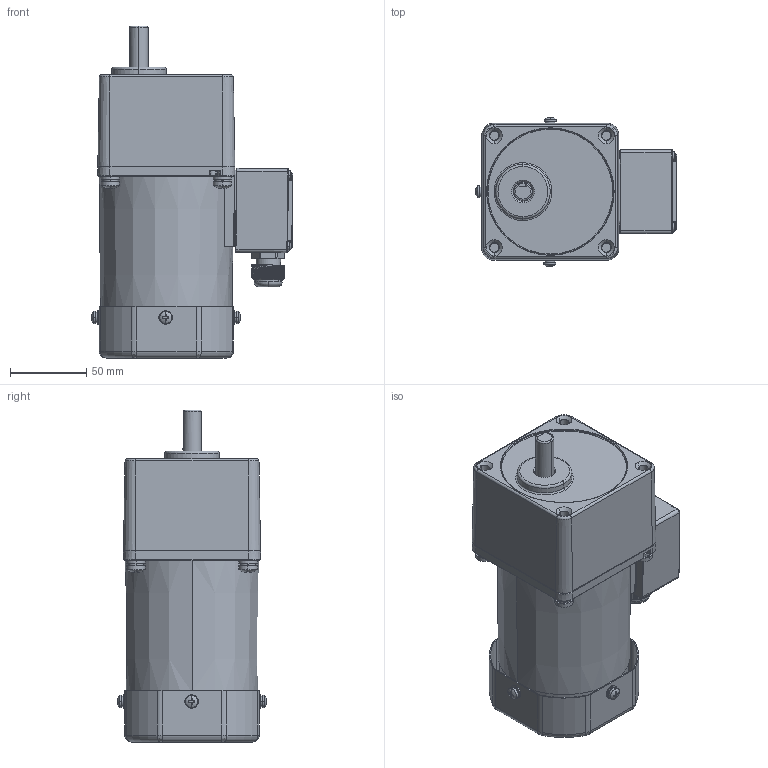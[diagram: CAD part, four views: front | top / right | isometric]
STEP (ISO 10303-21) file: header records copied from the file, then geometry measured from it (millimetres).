
FILE_DESCRIPTION (( 'STEP AP203' ), '1' );
FILE_NAME ('5RK60GN-CFT(5GN3K-200K).STEP', '2023-08-08T06:10:47', ( 'Windows User' ), ( 'P R C' ), 'SwSTEP 2.0', 'SolidWorks 2019', '' );
FILE_SCHEMA (( 'CONFIG_CONTROL_DESIGN' ));
Length unit declared in the file: millimetre
Products named in the file (16): ^_____5RK60GN-CFT(5GN3K-200K)(2)_5RK60GN-CFT(5GN3K-200K); 葩璃 (5) ^_____5RK60GN-CFT(5GN3K-200K)(2)_5RK60GN-CFT(5GN3K-200K); 葩璃 (6) ^_____5RK60GN-CFT(5GN3K-200K)(2)_5RK60GN-CFT(5GN3K-200K); 5RK60GN-CFT(5GN3K-200K)(2)^5RK60GN-CFT(5GN3K-200K); 葩璃 (4) ^_____5RK60GN-CFT(5GN3K-200K)(2)_5RK60GN-CFT(5GN3K-200K); ^5RK60GN-CFT(5GN3K-200K)(2)_5RK60GN-CFT(5GN3K-200K); ^_5RK60GN-CFT(5GN3K-200K)(2)_5RK60GN-CFT(5GN3K-200K); ^____5RK60GN-CFT(5GN3K-200K)(2)_5RK60GN-CFT(5GN3K-200K); 5GN3K__200K^5RK60GN-CFT(5GN3K-200K)(2)_5RK60GN-CFT(5GN3K-200K); ^___5RK60GN-CFT(5GN3K-200K)(2)_5RK60GN-CFT(5GN3K-200K); 5RK60GN-CFT(5GN3K-200K); 葩璃 (2) ^_____5RK60GN-CFT(5GN3K-200K)(2)_5RK60GN-CFT(5GN3K-200K); ^__5RK60GN-CFT(5GN3K-200K)(2)_5RK60GN-CFT(5GN3K-200K); 葩璃 (3) ^_____5RK60GN-CFT(5GN3K-200K)(2)_5RK60GN-CFT(5GN3K-200K)
Assembly tree (15 placements, depth 8):
  5RK60GN-CFT(5GN3K-200K)
    5RK60GN-CFT(5GN3K-200K)(2)^5RK60GN-CFT(5GN3K-200K)
      ^5RK60GN-CFT(5GN3K-200K)(2)_5RK60GN-CFT(5GN3K-200K)
        ^_5RK60GN-CFT(5GN3K-200K)(2)_5RK60GN-CFT(5GN3K-200K)
          ^__5RK60GN-CFT(5GN3K-200K)(2)_5RK60GN-CFT(5GN3K-200K)
            ^___5RK60GN-CFT(5GN3K-200K)(2)_5RK60GN-CFT(5GN3K-200K)
              ^____5RK60GN-CFT(5GN3K-200K)(2)_5RK60GN-CFT(5GN3K-200K)
                ^_____5RK60GN-CFT(5GN3K-200K)(2)_5RK60GN-CFT(5GN3K-200K)
                葩璃 (2) ^_____5RK60GN-CFT(5GN3K-200K)(2)_5RK60GN-CFT(5GN3K-200K)
                葩璃 (3) ^_____5RK60GN-CFT(5GN3K-200K)(2)_5RK60GN-CFT(5GN3K-200K)
                葩璃 (4) ^_____5RK60GN-CFT(5GN3K-200K)(2)_5RK60GN-CFT(5GN3K-200K)
                葩璃 (5) ^_____5RK60GN-CFT(5GN3K-200K)(2)_5RK60GN-CFT(5GN3K-200K)
                葩璃 (6) ^_____5RK60GN-CFT(5GN3K-200K)(2)_5RK60GN-CFT(5GN3K-200K)
            ^___5RK60GN-CFT(5GN3K-200K)(2)_5RK60GN-CFT(5GN3K-200K)
        ^_5RK60GN-CFT(5GN3K-200K)(2)_5RK60GN-CFT(5GN3K-200K)
      5GN3K__200K^5RK60GN-CFT(5GN3K-200K)(2)_5RK60GN-CFT(5GN3K-200K)
Bounding box: 132.2 x 98.11 x 218 mm (x, y, z)
Volume: 1244697.2 mm3; surface area: 157917.3 mm2
Topology: 51 solids, 51 shells, 2045 faces, 5248 edges, 3320 vertices
Faces by surface type: cylinder 813, plane 602, cone 364, torus 104, sphere 100, bspline 62
Entity records: 69903 total; most frequent: CARTESIAN_POINT 17707, DIRECTION 11334, ORIENTED_EDGE 10396, EDGE_CURVE 5198, AXIS2_PLACEMENT_3D 4661, VERTEX_POINT 3316, CIRCLE 2654, EDGE_LOOP 2182
